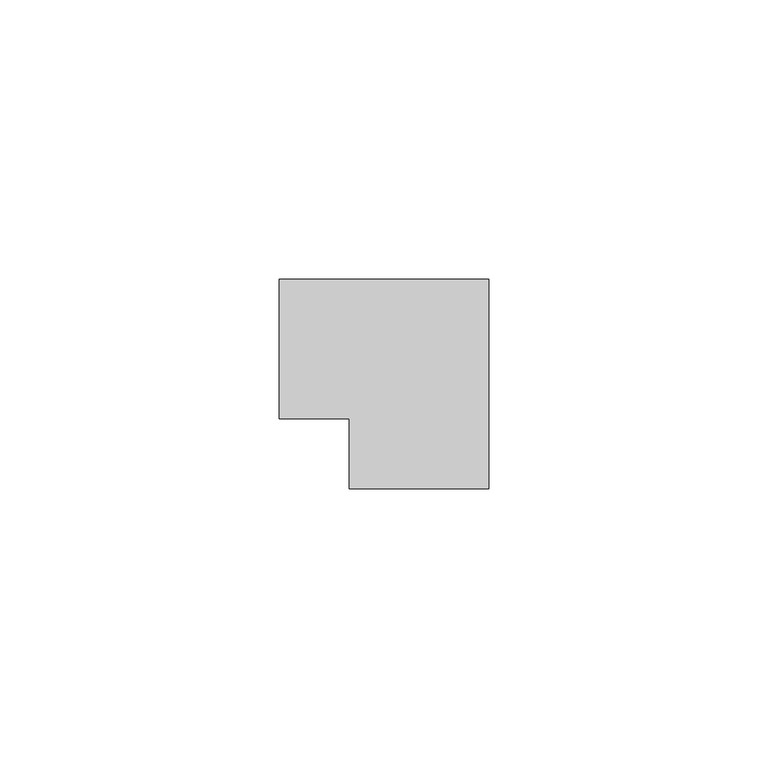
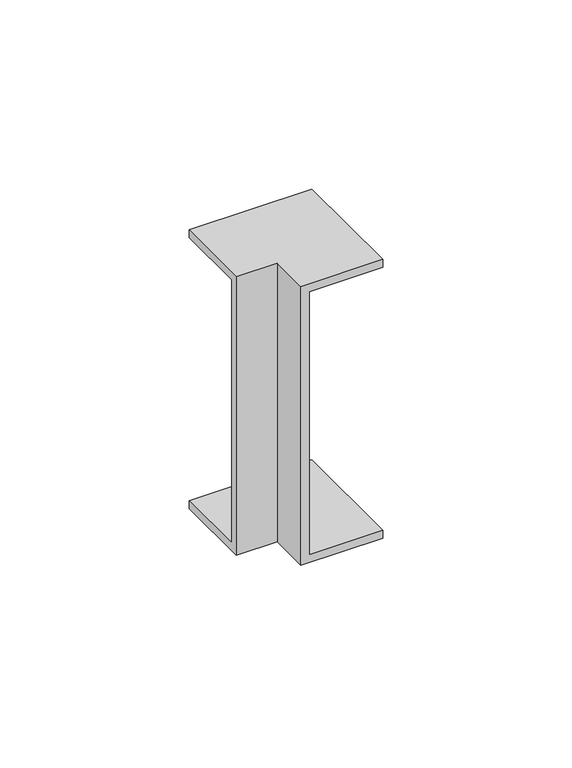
"""IFC4 building model written with IfcOpenShell, lengths in millimetres: cable carrier fitting geometry, КНС_УголВнешний_ILF_DKC : Белый."""

from ifc_helpers import new_model, si_unit, origin, place, context, project, spatial, faceted_brep, source, transform, mapped, element, save


def cable_carrier_fitting_0515663b(model_context):
    return source(origin(), model_context, "Body", "Brep", [
        faceted_brep([(-25.0, -12.5, 45.0), (-25.0, 12.5, 45.0), (-25.0, 12.5, 42.46), (-25.0, -9.96, 42.46), (-25.0, -9.96, -42.46), (-25.0, 12.5, -42.46), (-25.0, 12.5, -45.0), (-25.0, -12.5, -45.0), (-12.5, -25.0, 45.0), (-12.5, -25.0, -45.0), (12.5, -25.0, -45.0), (12.5, -25.0, -42.46), (-9.96, -25.0, -42.46), (-9.96, -25.0, 42.46), (12.5, -25.0, 42.46), (12.5, -25.0, 45.0), (-12.5, -12.5, -45.0), (-12.5, -12.5, 45.0), (12.5, 12.5, -45.0), (12.5, 12.5, -42.46), (-9.96, -9.96, -42.46), (-9.96, -9.96, 42.46), (12.5, 12.5, 42.46), (12.5, 12.5, 45.0)], [[[0, 1, 2, 3, 4, 5, 6, 7]], [[8, 9, 10, 11, 12, 13, 14, 15]], [[7, 16, 17, 0]], [[6, 18, 10, 9, 16, 7]], [[5, 19, 18, 6]], [[4, 20, 12, 11, 19, 5]], [[3, 21, 20, 4]], [[2, 22, 14, 13, 21, 3]], [[1, 23, 22, 2]], [[0, 17, 8, 15, 23, 1]], [[16, 9, 8, 17]], [[19, 11, 10, 18]], [[21, 13, 12, 20]], [[23, 15, 14, 22]]]),
    ])


if __name__ == "__main__":
    model = new_model("IFC4")
    model_context = context("Model", 3, world=origin())
    ifc_project = project(units=[si_unit("LENGTHUNIT", "METRE", prefix="MILLI")], contexts=[model_context])
    site = spatial("IfcSite", under=ifc_project)
    building = spatial("IfcBuilding", under=site)
    placement = place(None, origin())
    cable_carrier_fitting_shape = cable_carrier_fitting_0515663b(model_context)
    element("IfcCableCarrierFitting", 1, ObjectType="КНС_УголВнешний_ILF_DKC : Белый", at=placement, inside=building, context=model_context, shape_type="MappedRepresentation", body=[
        mapped(cable_carrier_fitting_shape, transform((0.0, 0.0, 0.0), x_axis=(1.0, 0.0, 0.0), y_axis=(0.0, 1.0, 0.0), z_axis=(0.0, 0.0, 1.0))),
    ])
    save(model, "model.ifc")
